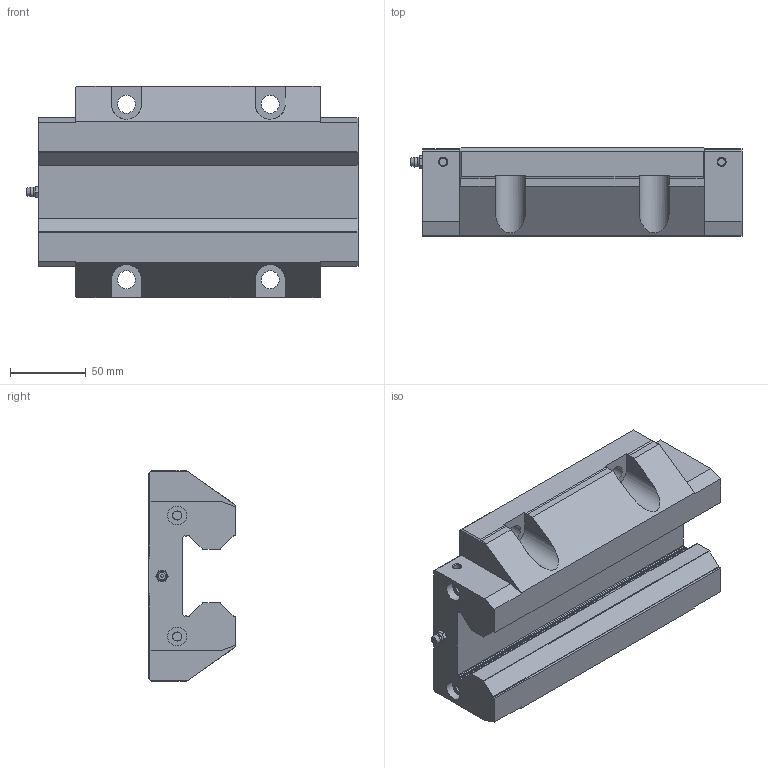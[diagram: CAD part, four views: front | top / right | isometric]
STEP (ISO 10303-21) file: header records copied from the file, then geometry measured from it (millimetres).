
FILE_DESCRIPTION(/* description */ ('STEP AP214'),/* implementation_level */ '2;1');
FILE_NAME(/* name */ 'ERG55P6LCC1N0______CAD_NO_(A-MT61)',/* time_stamp */ '2026-05-18T11:18:47+02:00',/* author */ ('License CC BY-ND 4.0'),/* organization */ ('CADENAS'),/* preprocessor_version */ 'ST-DEVELOPER v20',/* originating_system */ 'PARTsolutions',/* authorisation */ ' ');
FILE_SCHEMA (('AUTOMOTIVE_DESIGN {1 0 10303 214 3 1 1}'));
Length unit declared in the file: millimetre
Products named in the file (3): ERG55P6LCC1N0______CAD_NO_(A-MT61); ERG55LC01 Slider; hsr_ftht_A-M6F_grease_nipple_joint
Assembly tree (2 placements, depth 2):
  ERG55P6LCC1N0______CAD_NO_(A-MT61)
    ERG55LC01 Slider
    hsr_ftht_A-M6F_grease_nipple_joint
Bounding box: 219.41 x 58 x 140 mm (x, y, z)
Volume: 1095187.4 mm3; surface area: 112664 mm2
Topology: 2 solids, 2 shells, 184 faces, 465 edges, 304 vertices
Faces by surface type: plane 109, cylinder 51, cone 21, sphere 2, torus 1
Full cylindrical faces by diameter (mm): 4.917 x6, 6 x5, 10.2 x2, 11.835 x6, 12.5 x4
Entity records: 5387 total; most frequent: CARTESIAN_POINT 981, DIRECTION 896, ORIENTED_EDGE 840, EDGE_CURVE 420, AXIS2_PLACEMENT_3D 313, VERTEX_POINT 300, LINE 270, VECTOR 270
